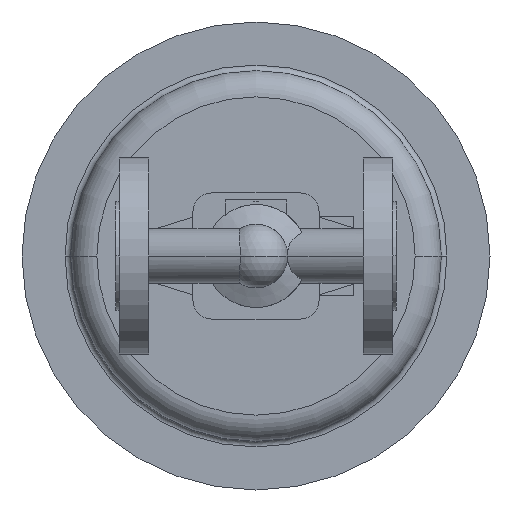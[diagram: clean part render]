
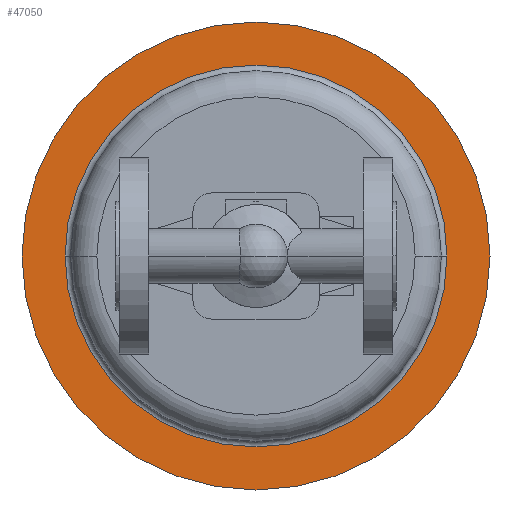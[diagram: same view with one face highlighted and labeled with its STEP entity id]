
A CAD part, front view. The second image highlights one B-rep face of the part: STEP entity #47050.
In plain terms, the highlighted planar face has unit normal (0, -1, 0).
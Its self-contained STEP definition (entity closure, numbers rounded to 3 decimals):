
#32380=CARTESIAN_POINT('',(-50.,375.,0.));
#32390=VERTEX_POINT('',#32380);
#32420=CARTESIAN_POINT('',(75.,375.,0.));
#32430=DIRECTION('',(0.,1.,0.));
#32440=DIRECTION('',(1.,0.,0.));
#32450=AXIS2_PLACEMENT_3D('',#32420,#32430,#32440);
#32460=CIRCLE('',#32450,125.);
#32470=CARTESIAN_POINT('',(200.,375.,0.));
#32480=VERTEX_POINT('',#32470);
#32490=EDGE_CURVE('',#32480,#32390,#32460,.T.);
#32810=CARTESIAN_POINT('',(177.,375.,0.));
#32820=VERTEX_POINT('',#32810);
#32990=CARTESIAN_POINT('',(-27.,375.,0.));
#33000=VERTEX_POINT('',#32990);
#33030=CARTESIAN_POINT('',(75.,375.,0.));
#33040=DIRECTION('',(0.,1.,0.));
#33050=DIRECTION('',(1.,0.,0.));
#33060=AXIS2_PLACEMENT_3D('',#33030,#33040,#33050);
#33070=CIRCLE('',#33060,102.);
#33080=EDGE_CURVE('',#33000,#32820,#33070,.T.);
#46900=CARTESIAN_POINT('',(188.5,375.,0.));
#46910=DIRECTION('',(0.,-1.,0.));
#46920=DIRECTION('',(-1.,0.,0.));
#46930=AXIS2_PLACEMENT_3D('',#46900,#46910,#46920);
#46940=PLANE('',#46930);
#46950=ORIENTED_EDGE('',*,*,#32490,.F.);
#46960=EDGE_CURVE('',#32390,#32480,#32460,.T.);
#46970=ORIENTED_EDGE('',*,*,#46960,.F.);
#46980=EDGE_LOOP('',(#46970,#46950));
#46990=FACE_OUTER_BOUND('',#46980,.T.);
#47000=EDGE_CURVE('',#32820,#33000,#33070,.T.);
#47010=ORIENTED_EDGE('',*,*,#47000,.T.);
#47020=ORIENTED_EDGE('',*,*,#33080,.T.);
#47030=EDGE_LOOP('',(#47020,#47010));
#47040=FACE_BOUND('',#47030,.T.);
#47050=ADVANCED_FACE('',(#46990,#47040),#46940,.T.);
